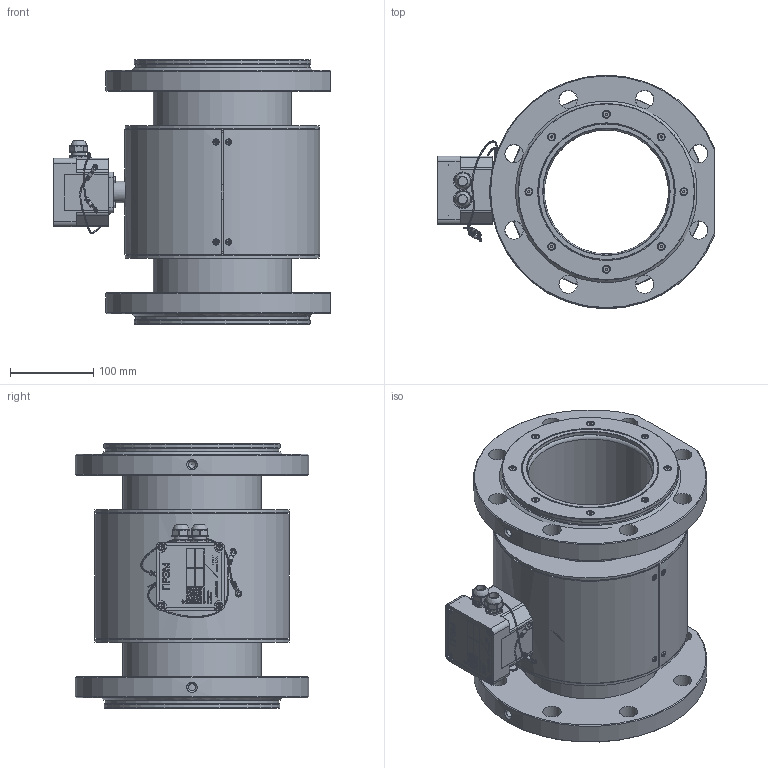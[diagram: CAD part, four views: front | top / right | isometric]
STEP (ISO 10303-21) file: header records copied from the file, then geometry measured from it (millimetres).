
FILE_DESCRIPTION(/* description */ (''),/* implementation_level */ '2;1');
FILE_NAME(/* name */ 'C:\ТЭК\Реклама\ПРЭМ-150F\ПРЭМ-150F.stp',/* time_stamp */ '2020-01-31T13:05:59+03:00',/* author */ ('Kishalov.m'),/* organization */ (''),/* preprocessor_version */ 'ST-DEVELOPER v18',/* originating_system */ 'Autodesk Inventor 2020',/* authorisation */ '');
FILE_SCHEMA (('AUTOMOTIVE_DESIGN { 1 0 10303 214 3 1 1 }'));
Length unit declared in the file: millimetre
Products named in the file (1): 8
Bounding box: 333 x 279.96 x 317 mm (x, y, z)
Volume: 4151367.3 mm3; surface area: 1020970.3 mm2
Topology: 15 solids, 50 shells, 3342 faces, 8945 edges, 5800 vertices
Faces by surface type: plane 1960, cylinder 678, bspline 522, cone 101, sphere 69, torus 12
Full cylindrical faces by diameter (mm): 0.431 x1, 0.546 x1, 1.159 x2, 1.5 x2, 1.7 x4, 1.8 x8, 2.5 x4, 3 x3, 3.242 x4, 3.683 x4, 4 x8, 4.394 x2, 4.521 x4, 4.7 x4, 5 x3, 5.207 x4, 5.472 x1, 5.5 x3, 7 x4, 7.5 x4, 7.8 x16, 8.376 x2, 8.5 x4, 10 x1, 11 x8, 12 x2, 13 x2, 14 x2, 15 x2, 17 x4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
Entity records: 121772 total; most frequent: CARTESIAN_POINT 40904, ORIENTED_EDGE 17636, DIRECTION 15202, EDGE_CURVE 8840, VERTEX_POINT 5802, LINE 5506, VECTOR 5506, AXIS2_PLACEMENT_3D 4848
